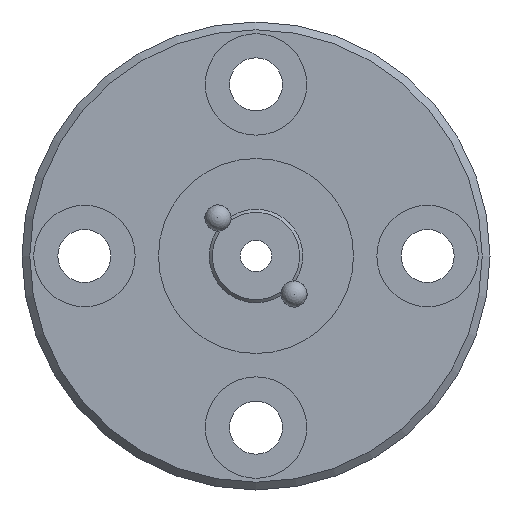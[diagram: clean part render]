
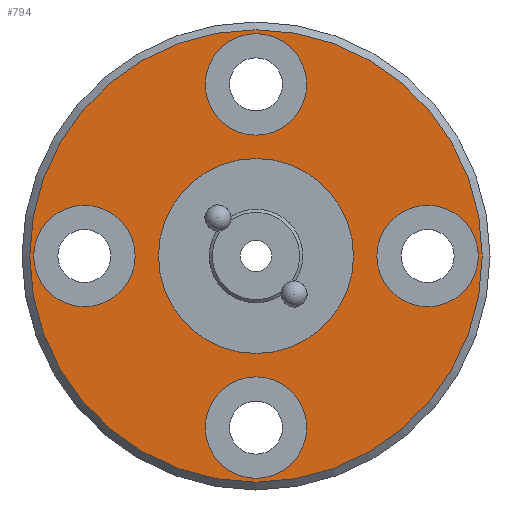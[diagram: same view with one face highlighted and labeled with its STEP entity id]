
A CAD part, left-side view. The second image highlights one B-rep face of the part: STEP entity #794.
In plain terms, the highlighted planar face has unit normal (-1, 0, 0).
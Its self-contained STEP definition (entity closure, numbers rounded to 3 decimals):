
#40=PLANE('',#879);
#136=ORIENTED_EDGE('',*,*,#328,.T.);
#137=ORIENTED_EDGE('',*,*,#329,.T.);
#138=ORIENTED_EDGE('',*,*,#330,.T.);
#139=ORIENTED_EDGE('',*,*,#331,.T.);
#140=ORIENTED_EDGE('',*,*,#332,.T.);
#141=ORIENTED_EDGE('',*,*,#326,.T.);
#326=EDGE_CURVE('',#422,#422,#497,.T.);
#328=EDGE_CURVE('',#424,#424,#499,.T.);
#329=EDGE_CURVE('',#425,#425,#500,.T.);
#330=EDGE_CURVE('',#426,#426,#501,.T.);
#331=EDGE_CURVE('',#427,#427,#502,.T.);
#332=EDGE_CURVE('',#428,#428,#503,.T.);
#422=VERTEX_POINT('',#1270);
#424=VERTEX_POINT('',#1275);
#425=VERTEX_POINT('',#1277);
#426=VERTEX_POINT('',#1279);
#427=VERTEX_POINT('',#1281);
#428=VERTEX_POINT('',#1283);
#497=CIRCLE('',#877,14.5);
#499=CIRCLE('',#880,6.25);
#500=CIRCLE('',#881,3.25);
#501=CIRCLE('',#882,3.25);
#502=CIRCLE('',#883,3.25);
#503=CIRCLE('',#884,3.25);
#558=EDGE_LOOP('',(#136));
#559=EDGE_LOOP('',(#137));
#560=EDGE_LOOP('',(#138));
#561=EDGE_LOOP('',(#139));
#562=EDGE_LOOP('',(#140));
#563=EDGE_LOOP('',(#141));
#676=FACE_BOUND('',#558,.T.);
#677=FACE_BOUND('',#559,.T.);
#678=FACE_BOUND('',#560,.T.);
#679=FACE_BOUND('',#561,.T.);
#680=FACE_BOUND('',#562,.T.);
#681=FACE_BOUND('',#563,.T.);
#794=ADVANCED_FACE('',(#676,#677,#678,#679,#680,#681),#40,.F.);
#877=AXIS2_PLACEMENT_3D('',#1269,#1003,#1004);
#879=AXIS2_PLACEMENT_3D('',#1273,#1007,#1008);
#880=AXIS2_PLACEMENT_3D('',#1274,#1009,#1010);
#881=AXIS2_PLACEMENT_3D('',#1276,#1011,#1012);
#882=AXIS2_PLACEMENT_3D('',#1278,#1013,#1014);
#883=AXIS2_PLACEMENT_3D('',#1280,#1015,#1016);
#884=AXIS2_PLACEMENT_3D('',#1282,#1017,#1018);
#1003=DIRECTION('',(-1.,0.,0.));
#1004=DIRECTION('',(0.,0.,1.));
#1007=DIRECTION('',(1.,0.,0.));
#1008=DIRECTION('',(0.,0.,-1.));
#1009=DIRECTION('',(1.,0.,0.));
#1010=DIRECTION('',(0.,0.,-1.));
#1011=DIRECTION('',(1.,0.,0.));
#1012=DIRECTION('',(0.,-1.,0.));
#1013=DIRECTION('',(1.,0.,0.));
#1014=DIRECTION('',(0.,-1.,0.));
#1015=DIRECTION('',(1.,0.,0.));
#1016=DIRECTION('',(0.,0.,1.));
#1017=DIRECTION('',(1.,0.,0.));
#1018=DIRECTION('',(0.,0.,1.));
#1269=CARTESIAN_POINT('',(-12.5,0.,0.));
#1270=CARTESIAN_POINT('',(-12.5,0.,14.5));
#1273=CARTESIAN_POINT('',(-12.5,14.5,0.));
#1274=CARTESIAN_POINT('',(-12.5,0.,0.));
#1275=CARTESIAN_POINT('',(-12.5,0.,-6.25));
#1276=CARTESIAN_POINT('',(-12.5,0.,11.));
#1277=CARTESIAN_POINT('',(-12.5,-3.25,11.));
#1278=CARTESIAN_POINT('',(-12.5,0.,-11.));
#1279=CARTESIAN_POINT('',(-12.5,-3.25,-11.));
#1280=CARTESIAN_POINT('',(-12.5,-11.,0.));
#1281=CARTESIAN_POINT('',(-12.5,-11.,3.25));
#1282=CARTESIAN_POINT('',(-12.5,11.,0.));
#1283=CARTESIAN_POINT('',(-12.5,11.,3.25));
